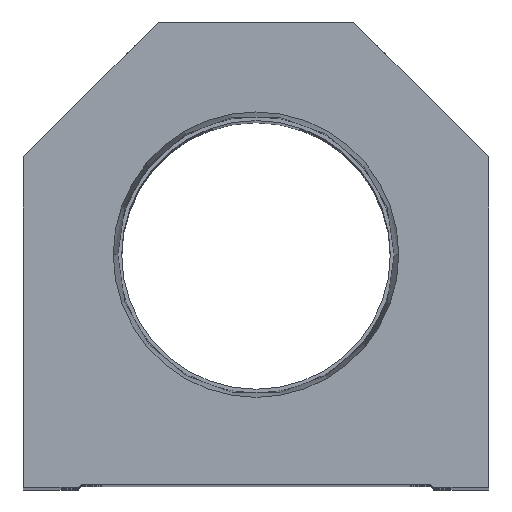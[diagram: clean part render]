
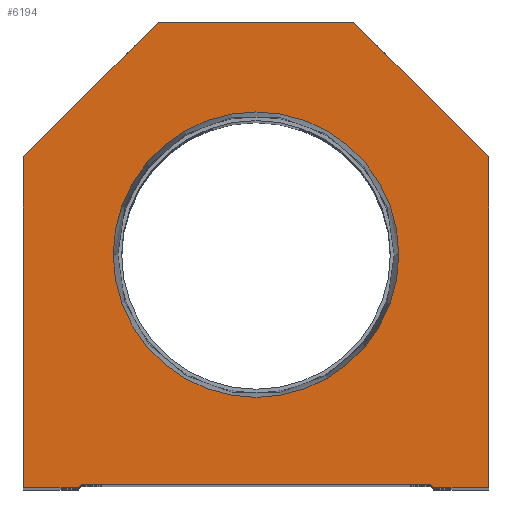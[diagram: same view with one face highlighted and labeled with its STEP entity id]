
A CAD part, top view. The second image highlights one B-rep face of the part: STEP entity #6194.
In plain terms, the highlighted planar face has unit normal (0, 0, 1).
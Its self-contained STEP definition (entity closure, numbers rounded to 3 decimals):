
#188 = CARTESIAN_POINT ( 'NONE',  ( 14.55, 14.55, 0. ) ) ;
#452 = VERTEX_POINT ( 'NONE', #9608 ) ;
#488 = EDGE_CURVE ( 'NONE', #19121, #14193, #13296, .T. ) ;
#891 = ORIENTED_EDGE ( 'NONE', *, *, #7724, .T. ) ;
#893 = DIRECTION ( 'NONE',  ( 0., 0., 1. ) ) ;
#1234 = DIRECTION ( 'NONE',  ( -1., 0., 0. ) ) ;
#1275 = EDGE_CURVE ( 'NONE', #2677, #18011, #11259, .T. ) ;
#1378 = CARTESIAN_POINT ( 'NONE',  ( -28.6, 0.5, 0. ) ) ;
#1451 = DIRECTION ( 'NONE',  ( 0.707, 0.707, 0. ) ) ;
#1485 = VERTEX_POINT ( 'NONE', #18845 ) ;
#1820 = CARTESIAN_POINT ( 'NONE',  ( -29.1, 0., 0. ) ) ;
#1832 = VECTOR ( 'NONE', #1451, 1000. ) ;
#2088 = VECTOR ( 'NONE', #15754, 1000. ) ;
#2097 = ORIENTED_EDGE ( 'NONE', *, *, #19090, .T. ) ;
#2224 = ORIENTED_EDGE ( 'NONE', *, *, #8942, .T. ) ;
#2319 = VERTEX_POINT ( 'NONE', #2493 ) ;
#2493 = CARTESIAN_POINT ( 'NONE',  ( 38.1, 54.1, 0. ) ) ;
#2502 = LINE ( 'NONE', #8326, #10620 ) ;
#2591 = VECTOR ( 'NONE', #8612, 1000. ) ;
#2613 = PLANE ( 'NONE',  #18976 ) ;
#2659 = EDGE_CURVE ( 'NONE', #1485, #6359, #13523, .T. ) ;
#2677 = VERTEX_POINT ( 'NONE', #7617 ) ;
#2741 = DIRECTION ( 'NONE',  ( -0.707, 0.707, 0. ) ) ;
#2980 = CARTESIAN_POINT ( 'NONE',  ( -38.1, 54.1, 0. ) ) ;
#3098 = CARTESIAN_POINT ( 'NONE',  ( 0., 38.1, 0. ) ) ;
#3107 = CARTESIAN_POINT ( 'NONE',  ( 23.374, 38.1, 0. ) ) ;
#3188 = EDGE_LOOP ( 'NONE', ( #18922, #9619, #17045, #8252, #2097, #17160, #891, #8490, #6330, #2224 ) ) ;
#4203 = CARTESIAN_POINT ( 'NONE',  ( 38.1, 54.1, 0. ) ) ;
#4335 = CIRCLE ( 'NONE', #17646, 23.374 ) ;
#4371 = CARTESIAN_POINT ( 'NONE',  ( -14.55, 14.55, 0. ) ) ;
#4415 = DIRECTION ( 'NONE',  ( 1., 0., 0. ) ) ;
#4694 = EDGE_CURVE ( 'NONE', #452, #2319, #18753, .T. ) ;
#5653 = EDGE_LOOP ( 'NONE', ( #9785, #17972 ) ) ;
#5788 = LINE ( 'NONE', #14775, #8782 ) ;
#5831 = DIRECTION ( 'NONE',  ( 1., 0., 0. ) ) ;
#5900 = CARTESIAN_POINT ( 'NONE',  ( -28.6, 0.5, 0. ) ) ;
#6194 = ADVANCED_FACE ( 'NONE', ( #11466, #15904 ), #2613, .T. ) ;
#6330 = ORIENTED_EDGE ( 'NONE', *, *, #9757, .T. ) ;
#6359 = VERTEX_POINT ( 'NONE', #1820 ) ;
#6521 = DIRECTION ( 'NONE',  ( -0.707, -0.707, 0. ) ) ;
#7386 = DIRECTION ( 'NONE',  ( 0.707, -0.707, 0. ) ) ;
#7617 = CARTESIAN_POINT ( 'NONE',  ( -23.374, 38.1, 0. ) ) ;
#7724 = EDGE_CURVE ( 'NONE', #2319, #15986, #17487, .T. ) ;
#7914 = DIRECTION ( 'NONE',  ( 1., 0., 0. ) ) ;
#8128 = VERTEX_POINT ( 'NONE', #14606 ) ;
#8225 = EDGE_CURVE ( 'NONE', #8770, #19121, #19183, .T. ) ;
#8252 = ORIENTED_EDGE ( 'NONE', *, *, #488, .T. ) ;
#8326 = CARTESIAN_POINT ( 'NONE',  ( 16., 76.2, 0. ) ) ;
#8390 = CARTESIAN_POINT ( 'NONE',  ( 38.1, 0., 0. ) ) ;
#8490 = ORIENTED_EDGE ( 'NONE', *, *, #18216, .T. ) ;
#8548 = CARTESIAN_POINT ( 'NONE',  ( 0., 0., 0. ) ) ;
#8612 = DIRECTION ( 'NONE',  ( 0., -1., 0. ) ) ;
#8770 = VERTEX_POINT ( 'NONE', #1378 ) ;
#8782 = VECTOR ( 'NONE', #14972, 1000. ) ;
#8942 = EDGE_CURVE ( 'NONE', #16518, #1485, #9973, .T. ) ;
#9113 = CARTESIAN_POINT ( 'NONE',  ( 16., 76.2, 0. ) ) ;
#9533 = CARTESIAN_POINT ( 'NONE',  ( 28.6, 0.5, 0. ) ) ;
#9608 = CARTESIAN_POINT ( 'NONE',  ( 38.1, 0., 0. ) ) ;
#9619 = ORIENTED_EDGE ( 'NONE', *, *, #11628, .T. ) ;
#9757 = EDGE_CURVE ( 'NONE', #8128, #16518, #10771, .T. ) ;
#9785 = ORIENTED_EDGE ( 'NONE', *, *, #16009, .F. ) ;
#9973 = LINE ( 'NONE', #19182, #2591 ) ;
#10186 = VECTOR ( 'NONE', #7386, 1000. ) ;
#10620 = VECTOR ( 'NONE', #1234, 1000. ) ;
#10771 = LINE ( 'NONE', #18495, #17509 ) ;
#11069 = DIRECTION ( 'NONE',  ( 1., 0., 0. ) ) ;
#11259 = CIRCLE ( 'NONE', #12489, 23.374 ) ;
#11466 = FACE_BOUND ( 'NONE', #5653, .T. ) ;
#11628 = EDGE_CURVE ( 'NONE', #6359, #8770, #15112, .T. ) ;
#12123 = DIRECTION ( 'NONE',  ( 0., 0., 1. ) ) ;
#12489 = AXIS2_PLACEMENT_3D ( 'NONE', #15550, #893, #7914 ) ;
#13296 = LINE ( 'NONE', #188, #10186 ) ;
#13523 = LINE ( 'NONE', #17695, #18410 ) ;
#13646 = DIRECTION ( 'NONE',  ( 1., 0., 0. ) ) ;
#14193 = VERTEX_POINT ( 'NONE', #17946 ) ;
#14445 = DIRECTION ( 'NONE',  ( 0., 0., 1. ) ) ;
#14606 = CARTESIAN_POINT ( 'NONE',  ( -16., 76.2, 0. ) ) ;
#14621 = VECTOR ( 'NONE', #13646, 1000. ) ;
#14775 = CARTESIAN_POINT ( 'NONE',  ( 28.6, 0., 0. ) ) ;
#14972 = DIRECTION ( 'NONE',  ( 1., 0., 0. ) ) ;
#15112 = LINE ( 'NONE', #4371, #1832 ) ;
#15550 = CARTESIAN_POINT ( 'NONE',  ( 0., 38.1, 0. ) ) ;
#15754 = DIRECTION ( 'NONE',  ( 0., 1., 0. ) ) ;
#15904 = FACE_OUTER_BOUND ( 'NONE', #3188, .T. ) ;
#15986 = VERTEX_POINT ( 'NONE', #9113 ) ;
#16009 = EDGE_CURVE ( 'NONE', #18011, #2677, #4335, .T. ) ;
#16518 = VERTEX_POINT ( 'NONE', #2980 ) ;
#17045 = ORIENTED_EDGE ( 'NONE', *, *, #8225, .T. ) ;
#17097 = VECTOR ( 'NONE', #2741, 1000. ) ;
#17160 = ORIENTED_EDGE ( 'NONE', *, *, #4694, .T. ) ;
#17487 = LINE ( 'NONE', #4203, #17097 ) ;
#17509 = VECTOR ( 'NONE', #6521, 1000. ) ;
#17646 = AXIS2_PLACEMENT_3D ( 'NONE', #3098, #12123, #5831 ) ;
#17695 = CARTESIAN_POINT ( 'NONE',  ( -28.6, 0., 0. ) ) ;
#17946 = CARTESIAN_POINT ( 'NONE',  ( 29.1, 0., 0. ) ) ;
#17972 = ORIENTED_EDGE ( 'NONE', *, *, #1275, .F. ) ;
#18011 = VERTEX_POINT ( 'NONE', #3107 ) ;
#18216 = EDGE_CURVE ( 'NONE', #15986, #8128, #2502, .T. ) ;
#18410 = VECTOR ( 'NONE', #4415, 1000. ) ;
#18495 = CARTESIAN_POINT ( 'NONE',  ( -38.1, 54.1, 0. ) ) ;
#18753 = LINE ( 'NONE', #8390, #2088 ) ;
#18845 = CARTESIAN_POINT ( 'NONE',  ( -38.1, 0., 0. ) ) ;
#18922 = ORIENTED_EDGE ( 'NONE', *, *, #2659, .T. ) ;
#18976 = AXIS2_PLACEMENT_3D ( 'NONE', #8548, #14445, #11069 ) ;
#19090 = EDGE_CURVE ( 'NONE', #14193, #452, #5788, .T. ) ;
#19121 = VERTEX_POINT ( 'NONE', #9533 ) ;
#19182 = CARTESIAN_POINT ( 'NONE',  ( -38.1, 0., 0. ) ) ;
#19183 = LINE ( 'NONE', #5900, #14621 ) ;
